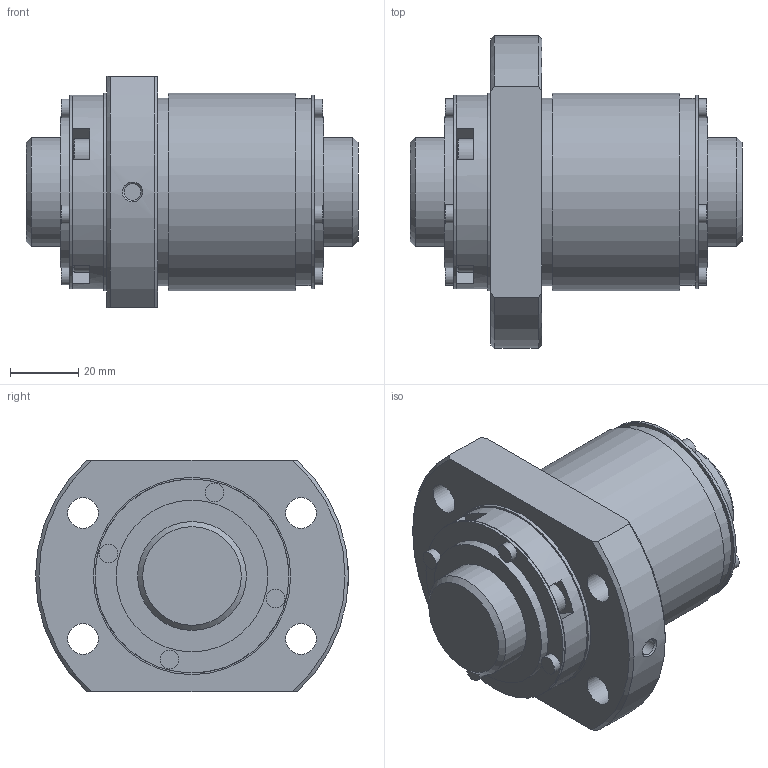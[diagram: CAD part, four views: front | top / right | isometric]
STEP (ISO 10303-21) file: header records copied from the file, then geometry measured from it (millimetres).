
FILE_DESCRIPTION(/* description */ ('STEP AP203'),/* implementation_level */ '2;1');
FILE_NAME(/* name */ 'BLK3232-3.6ZZG1+97.6LC3_N0_1300',/* time_stamp */ '2025-01-16T07:05:34+01:00',/* author */ ('License CC BY-ND 4.0'),/* organization */ ('CADENAS'),/* preprocessor_version */ 'ST-DEVELOPER v19.3',/* originating_system */ 'PARTsolutions',/* authorisation */ ' ');
FILE_SCHEMA (('CONFIG_CONTROL_DESIGN'));
Length unit declared in the file: millimetre
Products named in the file (3): BLK3232-3.6ZZG1+97.6LC3_N0_1300; NZZ0130BLK3232-3.60Shaft; NRR0130BLK3232-3.6Nut
Assembly tree (2 placements, depth 2):
  BLK3232-3.6ZZG1+97.6LC3_N0_1300
    NZZ0130BLK3232-3.60Shaft
    NRR0130BLK3232-3.6Nut
Bounding box: 97.6 x 92 x 68 mm (x, y, z)
Volume: 251431.5 mm3; surface area: 48598.3 mm2
Topology: 2 solids, 2 shells, 154 faces, 343 edges, 214 vertices
Faces by surface type: plane 95, cylinder 38, cone 17, torus 4
Full cylindrical faces by diameter (mm): 4.5 x4, 4.917 x1, 5.5 x8, 9 x4, 9.45 x4, 32 x2, 44.6 x2, 55 x1, 55.1 x1, 57 x3, 58 x2
Entity records: 4036 total; most frequent: CARTESIAN_POINT 769, DIRECTION 686, ORIENTED_EDGE 558, AXIS2_PLACEMENT_3D 283, EDGE_CURVE 279, FACE_BOUND 238, EDGE_LOOP 234, VERTEX_POINT 203
